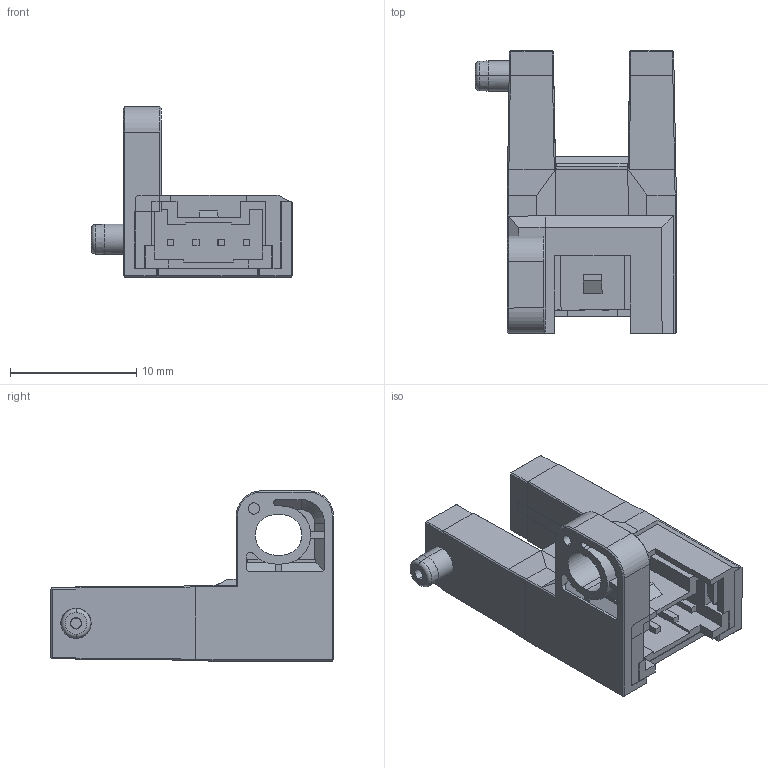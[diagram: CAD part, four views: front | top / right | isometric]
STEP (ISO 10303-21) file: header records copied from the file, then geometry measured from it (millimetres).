
FILE_DESCRIPTION (( 'STEP AP203' ), '1' );
FILE_NAME ('PU-F68.STEP', '2023-06-28T02:14:24', ( 'Windows User' ), ( 'P R C' ), 'SwSTEP 2.0', 'SolidWorks 2022', '' );
FILE_SCHEMA (( 'CONFIG_CONTROL_DESIGN' ));
Length unit declared in the file: millimetre
Products named in the file (37): Extruded-2.step; R2.step; LED0603(B).step; CAPC1005(0402).step; 6149758048.step; Board.step; TVS3.step; D1.step; Extruded-0.step; DD9702099 PU-68 V1.0; DD9702099 PU-68 V1.0.step; SD2008739-PU-68导光柱-A0; Extruded-1.step; 6149761808.step; C1.step; s1.step; 插件; 插针; R1.step; Extruded-3.step; TVS1.step; LED1_1.step; 6149760528.step; C4.step; PU-F68; 6149765568.step; SD2008757 PU-F68插件支架; CAPC1608(0603).step; 插头; 6149765248.step; Extruded.step; SD2008756 PU-F68壳体; Open CASCADE STEP translator 6.8 1.1.1.step; ____.step; TVS2.step; s2.step; U1.step
Assembly tree (42 placements, depth 6):
  PU-F68
    SD2008756 PU-F68壳体
    SD2008739-PU-68导光柱-A0
    SD2008757 PU-F68插件支架
    插头
      插件
      插针  x4
    DD9702099 PU-68 V1.0
      DD9702099 PU-68 V1.0.step
        Board.step
          Open CASCADE STEP translator 6.8 1.1.1.step
        s2.step
          ____.step
        s1.step
          ____.step
        D1.step
          6149760528.step
            Extruded.step
        C1.step
          CAPC1608(0603).step
        U1.step
          6149761808.step
            Extruded-0.step
        TVS3.step
          6149758048.step
            Extruded-1.step
        TVS2.step
          6149760528.step
            Extruded.step
        TVS1.step
          6149760528.step
            Extruded.step
        R2.step
          6149765568.step
            Extruded-2.step
        R1.step
          6149765248.step
            Extruded-3.step
        C4.step
          CAPC1005(0402).step
        LED1_1.step
          LED0603(B).step
Bounding box: 15.93 x 22.42 x 13.5 mm (x, y, z)
Volume: 1224.1 mm3; surface area: 2889.5 mm2
Topology: 21 solids, 21 shells, 645 faces, 1655 edges, 1050 vertices
Faces by surface type: plane 525, cylinder 89, sphere 20, cone 9, torus 2
Entity records: 22322 total; most frequent: CARTESIAN_POINT 3252, ORIENTED_EDGE 3108, DIRECTION 3080, EDGE_CURVE 1554, LINE 1352, VECTOR 1352, VERTEX_POINT 996, AXIS2_PLACEMENT_3D 864
